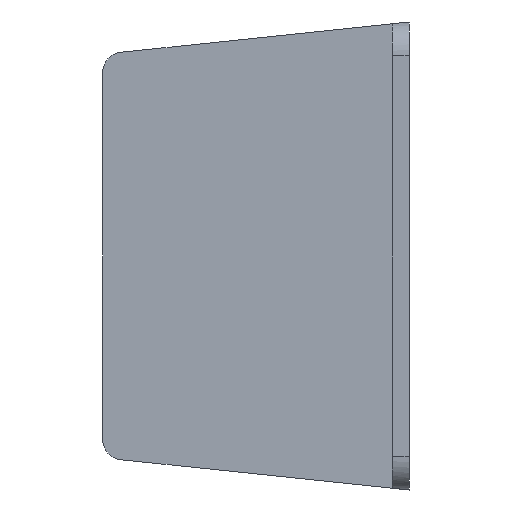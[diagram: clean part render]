
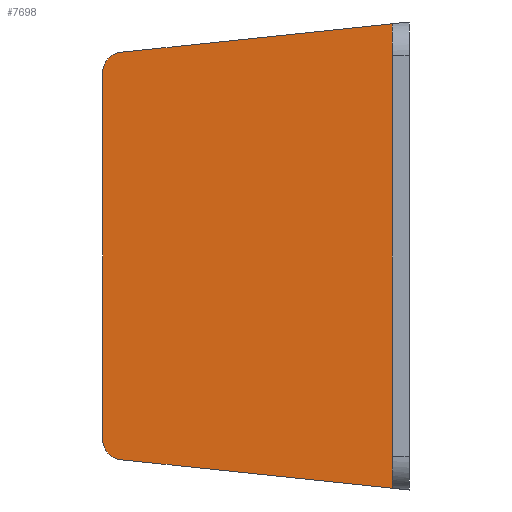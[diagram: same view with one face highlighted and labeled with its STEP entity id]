
A CAD part, left-side view. The second image highlights one B-rep face of the part: STEP entity #7698.
In plain terms, the highlighted planar face has unit normal (-1, 0, 0).
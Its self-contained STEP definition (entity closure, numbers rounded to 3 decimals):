
#118 = VERTEX_POINT ( 'NONE', #5064 ) ;
#198 = CARTESIAN_POINT ( 'NONE',  ( -56.75, 0., -34.237 ) ) ;
#309 = ORIENTED_EDGE ( 'NONE', *, *, #6088, .T. ) ;
#417 = VECTOR ( 'NONE', #2859, 1000. ) ;
#478 = ORIENTED_EDGE ( 'NONE', *, *, #7584, .T. ) ;
#615 = ORIENTED_EDGE ( 'NONE', *, *, #2606, .F. ) ;
#657 = CIRCLE ( 'NONE', #1174, 3. ) ;
#698 = VERTEX_POINT ( 'NONE', #6625 ) ;
#802 = LINE ( 'NONE', #5856, #417 ) ;
#1052 = PLANE ( 'NONE',  #7790 ) ;
#1174 = AXIS2_PLACEMENT_3D ( 'NONE', #1678, #5878, #2284 ) ;
#1229 = VECTOR ( 'NONE', #1310, 1000. ) ;
#1310 = DIRECTION ( 'NONE',  ( 0., 0., 1. ) ) ;
#1385 = VERTEX_POINT ( 'NONE', #3941 ) ;
#1523 = CIRCLE ( 'NONE', #7267, 3. ) ;
#1636 = VECTOR ( 'NONE', #3329, 1000. ) ;
#1678 = CARTESIAN_POINT ( 'NONE',  ( -56.75, -39.7, -27.048 ) ) ;
#1904 = ORIENTED_EDGE ( 'NONE', *, *, #4576, .F. ) ;
#2284 = DIRECTION ( 'NONE',  ( 0., 0., 1. ) ) ;
#2606 = EDGE_CURVE ( 'NONE', #698, #7401, #802, .T. ) ;
#2641 = VERTEX_POINT ( 'NONE', #4707 ) ;
#2849 = DIRECTION ( 'NONE',  ( 0., 0., 1. ) ) ;
#2859 = DIRECTION ( 'NONE',  ( 0., 0.995, -0.105 ) ) ;
#2895 = EDGE_CURVE ( 'NONE', #1385, #5203, #4915, .T. ) ;
#2966 = EDGE_CURVE ( 'NONE', #2641, #5203, #1523, .T. ) ;
#3012 = DIRECTION ( 'NONE',  ( -1., 0., 0. ) ) ;
#3043 = CARTESIAN_POINT ( 'NONE',  ( -56.75, -40.014, 30.032 ) ) ;
#3059 = ORIENTED_EDGE ( 'NONE', *, *, #2895, .F. ) ;
#3309 = VECTOR ( 'NONE', #3555, 1000. ) ;
#3329 = DIRECTION ( 'NONE',  ( 0., 0., 1. ) ) ;
#3426 = LINE ( 'NONE', #6932, #1636 ) ;
#3555 = DIRECTION ( 'NONE',  ( 0., -0.995, -0.105 ) ) ;
#3941 = CARTESIAN_POINT ( 'NONE',  ( -56.75, 0., 34.237 ) ) ;
#4086 = FACE_OUTER_BOUND ( 'NONE', #4760, .T. ) ;
#4227 = LINE ( 'NONE', #4907, #1229 ) ;
#4346 = ORIENTED_EDGE ( 'NONE', *, *, #2966, .T. ) ;
#4576 = EDGE_CURVE ( 'NONE', #7401, #1385, #4227, .T. ) ;
#4707 = CARTESIAN_POINT ( 'NONE',  ( -56.75, -42.7, 27.048 ) ) ;
#4760 = EDGE_LOOP ( 'NONE', ( #615, #309, #478, #4346, #3059, #1904 ) ) ;
#4907 = CARTESIAN_POINT ( 'NONE',  ( -56.75, 0., -34.5 ) ) ;
#4915 = LINE ( 'NONE', #7160, #3309 ) ;
#5064 = CARTESIAN_POINT ( 'NONE',  ( -56.75, -42.7, -27.048 ) ) ;
#5203 = VERTEX_POINT ( 'NONE', #3043 ) ;
#5856 = CARTESIAN_POINT ( 'NONE',  ( -56.75, -42.206, -29.801 ) ) ;
#5878 = DIRECTION ( 'NONE',  ( -1., 0., 0. ) ) ;
#6088 = EDGE_CURVE ( 'NONE', #698, #118, #657, .T. ) ;
#6453 = DIRECTION ( 'NONE',  ( -1., 0., 0. ) ) ;
#6613 = CARTESIAN_POINT ( 'NONE',  ( -56.75, -39.7, 27.048 ) ) ;
#6625 = CARTESIAN_POINT ( 'NONE',  ( -56.75, -40.014, -30.032 ) ) ;
#6932 = CARTESIAN_POINT ( 'NONE',  ( -56.75, -42.7, -34.5 ) ) ;
#7035 = CARTESIAN_POINT ( 'NONE',  ( -56.75, -42.7, -34.5 ) ) ;
#7160 = CARTESIAN_POINT ( 'NONE',  ( -56.75, -49.379, 29.047 ) ) ;
#7212 = DIRECTION ( 'NONE',  ( 0., 0., 1. ) ) ;
#7267 = AXIS2_PLACEMENT_3D ( 'NONE', #6613, #3012, #7212 ) ;
#7401 = VERTEX_POINT ( 'NONE', #198 ) ;
#7584 = EDGE_CURVE ( 'NONE', #118, #2641, #3426, .T. ) ;
#7698 = ADVANCED_FACE ( 'NONE', ( #4086 ), #1052, .T. ) ;
#7790 = AXIS2_PLACEMENT_3D ( 'NONE', #7035, #6453, #2849 ) ;
